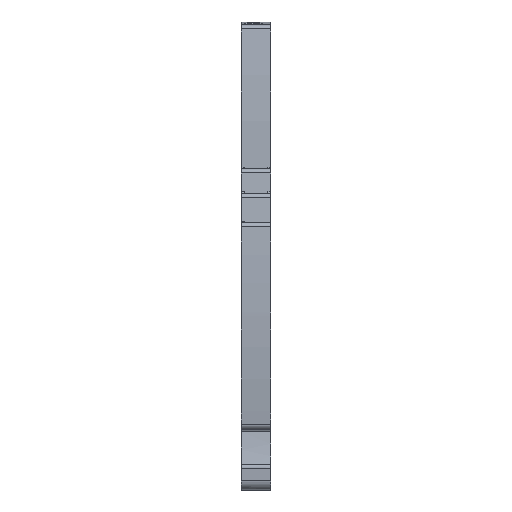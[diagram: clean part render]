
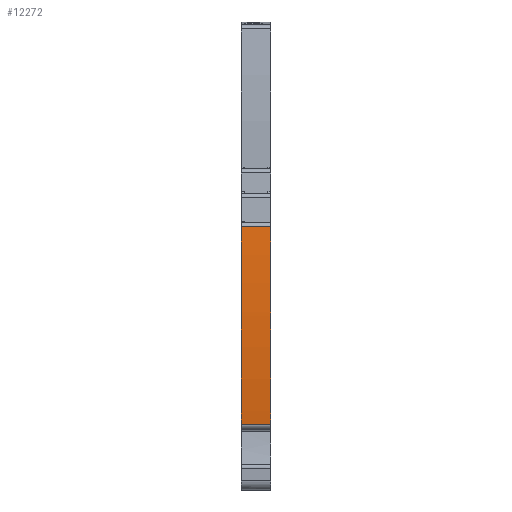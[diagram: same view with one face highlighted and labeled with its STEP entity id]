
A CAD part, front view. The second image highlights one B-rep face of the part: STEP entity #12272.
In plain terms, the highlighted cylindrical face has radius 202 mm (diameter 404 mm), a partial arc.
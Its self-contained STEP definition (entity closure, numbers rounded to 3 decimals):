
#6052=AXIS2_PLACEMENT_3D('Circle Axis2P3D',#6050,#6051,$) ;
#6059=AXIS2_PLACEMENT_3D('Circle Axis2P3D',#6057,#6058,$) ;
#6066=AXIS2_PLACEMENT_3D('Circle Axis2P3D',#6064,#6065,$) ;
#6073=AXIS2_PLACEMENT_3D('Circle Axis2P3D',#6071,#6072,$) ;
#11008=AXIS2_PLACEMENT_3D('Circle Axis2P3D',#11006,#11007,$) ;
#11015=AXIS2_PLACEMENT_3D('Circle Axis2P3D',#11013,#11014,$) ;
#11022=AXIS2_PLACEMENT_3D('Circle Axis2P3D',#11020,#11021,$) ;
#11029=AXIS2_PLACEMENT_3D('Circle Axis2P3D',#11027,#11028,$) ;
#12253=AXIS2_PLACEMENT_3D('Cylinder Axis2P3D',#12250,#12251,#12252) ;
#6047=CARTESIAN_POINT('Vertex',(6.,0.609,53.828)) ;
#6050=CARTESIAN_POINT('Axis2P3D Location',(6.,202.,38.15)) ;
#6054=CARTESIAN_POINT('Vertex',(6.,0.007,36.45)) ;
#6057=CARTESIAN_POINT('Axis2P3D Location',(6.,202.,38.15)) ;
#6061=CARTESIAN_POINT('Vertex',(6.,0.015,35.65)) ;
#6064=CARTESIAN_POINT('Axis2P3D Location',(6.,202.,38.15)) ;
#6068=CARTESIAN_POINT('Vertex',(6.,1.191,16.25)) ;
#6071=CARTESIAN_POINT('Axis2P3D Location',(6.,202.,38.15)) ;
#6075=CARTESIAN_POINT('Vertex',(6.,1.531,13.327)) ;
#8807=CARTESIAN_POINT('Vertex',(0.,0.609,53.828)) ;
#8810=CARTESIAN_POINT('Line Origine',(2.39,0.609,53.828)) ;
#11003=CARTESIAN_POINT('Vertex',(0.,1.531,13.327)) ;
#11006=CARTESIAN_POINT('Axis2P3D Location',(0.,202.,38.15)) ;
#11010=CARTESIAN_POINT('Vertex',(0.,1.191,16.25)) ;
#11013=CARTESIAN_POINT('Axis2P3D Location',(0.,202.,38.15)) ;
#11017=CARTESIAN_POINT('Vertex',(0.,0.015,35.65)) ;
#11020=CARTESIAN_POINT('Axis2P3D Location',(0.,202.,38.15)) ;
#11024=CARTESIAN_POINT('Vertex',(0.,0.007,36.45)) ;
#11027=CARTESIAN_POINT('Axis2P3D Location',(0.,202.,38.15)) ;
#12250=CARTESIAN_POINT('Axis2P3D Location',(2.55,202.,38.15)) ;
#12255=CARTESIAN_POINT('Line Origine',(12.39,1.531,13.327)) ;
#6051=DIRECTION('Axis2P3D Direction',(1.,0.,0.)) ;
#6058=DIRECTION('Axis2P3D Direction',(1.,0.,0.)) ;
#6065=DIRECTION('Axis2P3D Direction',(1.,0.,0.)) ;
#6072=DIRECTION('Axis2P3D Direction',(1.,0.,0.)) ;
#8811=DIRECTION('Vector Direction',(1.,0.,0.)) ;
#11007=DIRECTION('Axis2P3D Direction',(1.,0.,0.)) ;
#11014=DIRECTION('Axis2P3D Direction',(1.,0.,0.)) ;
#11021=DIRECTION('Axis2P3D Direction',(1.,0.,0.)) ;
#11028=DIRECTION('Axis2P3D Direction',(1.,0.,0.)) ;
#12251=DIRECTION('Axis2P3D Direction',(1.,0.,0.)) ;
#12252=DIRECTION('Axis2P3D XDirection',(0.,-0.997,0.078)) ;
#12256=DIRECTION('Vector Direction',(1.,0.,0.)) ;
#8812=VECTOR('Line Direction',#8811,1.) ;
#12257=VECTOR('Line Direction',#12256,1.) ;
#12261=ORIENTED_EDGE('',*,*,#11026,.T.) ;
#12262=ORIENTED_EDGE('',*,*,#11019,.T.) ;
#12263=ORIENTED_EDGE('',*,*,#11012,.T.) ;
#12264=ORIENTED_EDGE('',*,*,#12259,.F.) ;
#12265=ORIENTED_EDGE('',*,*,#6077,.F.) ;
#12266=ORIENTED_EDGE('',*,*,#6070,.F.) ;
#12267=ORIENTED_EDGE('',*,*,#6063,.F.) ;
#12268=ORIENTED_EDGE('',*,*,#6056,.F.) ;
#12269=ORIENTED_EDGE('',*,*,#8814,.T.) ;
#12270=ORIENTED_EDGE('',*,*,#11031,.T.) ;
#12272=ADVANCED_FACE('KLEMME',(#12271),#12254,.T.) ;
#6053=CIRCLE('generated circle',#6052,202.) ;
#6060=CIRCLE('generated circle',#6059,202.) ;
#6067=CIRCLE('generated circle',#6066,202.) ;
#6074=CIRCLE('generated circle',#6073,202.) ;
#11009=CIRCLE('generated circle',#11008,202.) ;
#11016=CIRCLE('generated circle',#11015,202.) ;
#11023=CIRCLE('generated circle',#11022,202.) ;
#11030=CIRCLE('generated circle',#11029,202.) ;
#12254=CYLINDRICAL_SURFACE('generated cylinder',#12253,202.) ;
#6056=EDGE_CURVE('',#6048,#6055,#6053,.T.) ;
#6063=EDGE_CURVE('',#6055,#6062,#6060,.T.) ;
#6070=EDGE_CURVE('',#6062,#6069,#6067,.T.) ;
#6077=EDGE_CURVE('',#6069,#6076,#6074,.T.) ;
#8814=EDGE_CURVE('',#6048,#8808,#8813,.F.) ;
#11012=EDGE_CURVE('',#11011,#11004,#11009,.T.) ;
#11019=EDGE_CURVE('',#11018,#11011,#11016,.T.) ;
#11026=EDGE_CURVE('',#11025,#11018,#11023,.T.) ;
#11031=EDGE_CURVE('',#8808,#11025,#11030,.T.) ;
#12259=EDGE_CURVE('',#6076,#11004,#12258,.F.) ;
#12260=EDGE_LOOP('',(#12261,#12262,#12263,#12264,#12265,#12266,#12267,#12268,#12269,#12270)) ;
#12271=FACE_OUTER_BOUND('',#12260,.T.) ;
#8813=LINE('Line',#8810,#8812) ;
#12258=LINE('Line',#12255,#12257) ;
#6048=VERTEX_POINT('',#6047) ;
#6055=VERTEX_POINT('',#6054) ;
#6062=VERTEX_POINT('',#6061) ;
#6069=VERTEX_POINT('',#6068) ;
#6076=VERTEX_POINT('',#6075) ;
#8808=VERTEX_POINT('',#8807) ;
#11004=VERTEX_POINT('',#11003) ;
#11011=VERTEX_POINT('',#11010) ;
#11018=VERTEX_POINT('',#11017) ;
#11025=VERTEX_POINT('',#11024) ;
